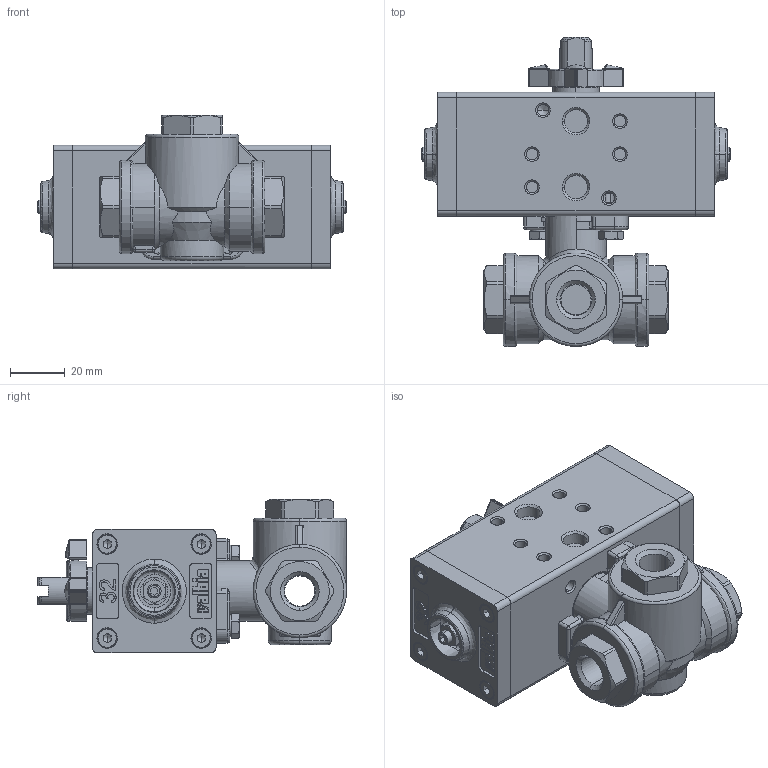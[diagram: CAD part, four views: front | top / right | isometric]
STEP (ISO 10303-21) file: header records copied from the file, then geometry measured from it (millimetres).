
FILE_DESCRIPTION (( 'STEP AP214' ), '1' );
FILE_NAME ('8P00830002.STEP', '2017-03-13T07:34:27', ( 'Negroni' ), ( 'Hewlett-Packard Company' ), 'SwSTEP 2.0', 'SolidWorks 2015', '' );
FILE_SCHEMA (( 'AUTOMOTIVE_DESIGN' ));
Length unit declared in the file: millimetre
Products named in the file (1): 8P00830002
Bounding box: 112.52 x 112.5 x 56 mm (x, y, z)
Volume: 263612.1 mm3; surface area: 47956.3 mm2
Topology: 1 solids, 1 shells, 1243 faces, 3291 edges, 2102 vertices
Faces by surface type: plane 574, cylinder 291, cone 192, bspline 165, torus 15, sphere 6
Full cylindrical faces by diameter (mm): 24.5 x2
Entity records: 66637 total; most frequent: CARTESIAN_POINT 29210, ORIENTED_EDGE 6496, DIRECTION 4496, EDGE_CURVE 3248, VERTEX_POINT 2102, AXIS2_PLACEMENT_3D 1500, VECTOR 1496, LINE 1496
